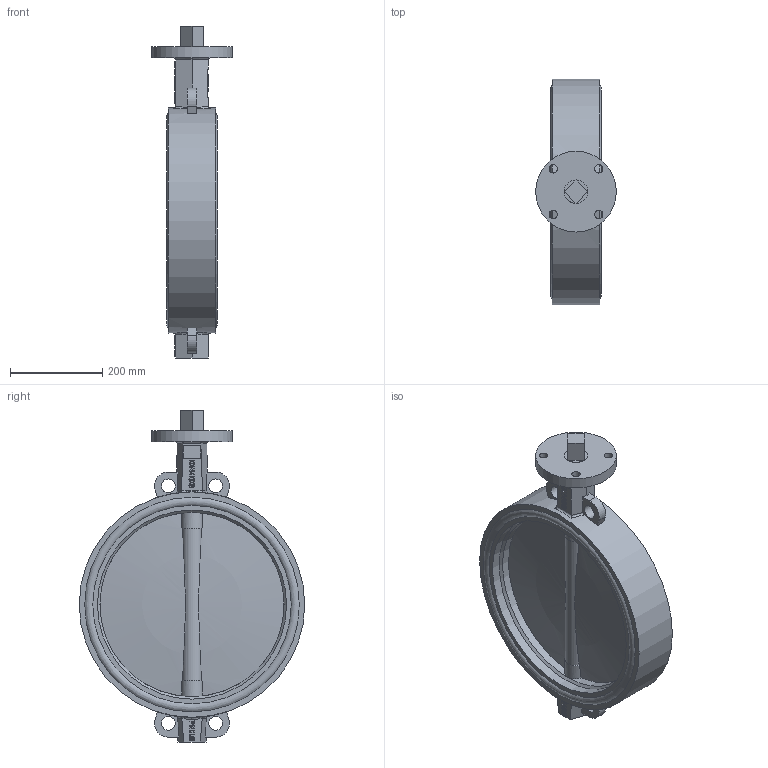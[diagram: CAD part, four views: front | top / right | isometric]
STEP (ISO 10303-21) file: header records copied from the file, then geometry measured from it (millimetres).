
FILE_DESCRIPTION(('STEP AP242'), '1');
FILE_NAME('Ïîâîðîòíûé çàòâîð ïîä ýëåêòðîïðèâîä', '', ('UNSPECIFIED'), ('UNSPECIFIED'), 'C3D Converter', 'C3D Toolkit', '');
FILE_SCHEMA(('AP242_MANAGED_MODEL_BASED_3D_ENGINEERING_MIM_LF { 1 0 10303 442 1 1 4 }'));
Length unit declared in the file: millimetre
Products named in the file (6): П
Assembly tree (6 placements, depth 2):
  (unnamed)
    (unnamed)
    П  x2
    (unnamed)
    (unnamed)
    (unnamed)
Bounding box: 175 x 489 x 720 mm (x, y, z)
Volume: 10934973 mm3; surface area: 1431175.2 mm2
Topology: 6 solids, 6 shells, 410 faces, 1070 edges, 706 vertices
Faces by surface type: plane 198, extrusion 135, cylinder 55, bspline 8, torus 6, cone 4, sphere 4
Full cylindrical faces by diameter (mm): 11.421 x1, 18 x4, 30 x4, 36 x6, 48.45 x4, 50.912 x5, 175 x1, 400 x1, 410.2 x2, 430.6 x2, 447.9 x4, 465.2 x4, 489 x1
Entity records: 17876 total; most frequent: CARTESIAN_POINT 6351, ORIENTED_EDGE 2032, DIRECTION 1462, EDGE_CURVE 1016, VERTEX_POINT 701, VECTOR 674, LINE 539, EDGE_LOOP 517
